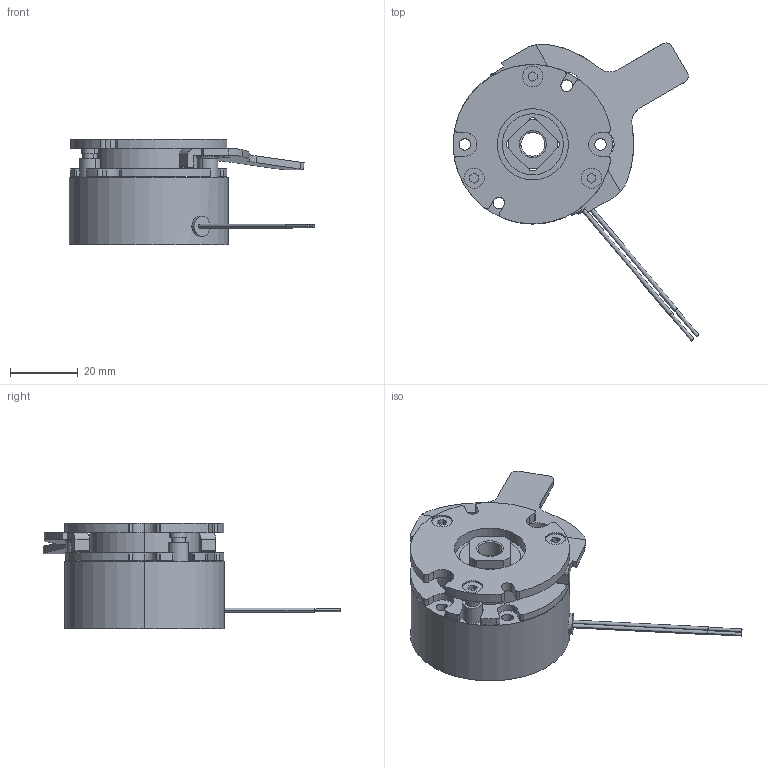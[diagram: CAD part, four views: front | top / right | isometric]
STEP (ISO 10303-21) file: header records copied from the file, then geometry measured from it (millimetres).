
FILE_DESCRIPTION (( 'STEP AP214' ), '1' );
FILE_NAME ('BXW-02-12-7.STEP', '2017-09-07T00:09:52', ( 'MIKI' ), ( '' ), 'SwSTEP 2.0', 'SolidWorks 2012', '' );
FILE_SCHEMA (( 'AUTOMOTIVE_DESIGN' ));
Length unit declared in the file: millimetre
Products named in the file (1): BXW-02-12-7
Bounding box: 72.5 x 87.9 x 31.2 mm (x, y, z)
Volume: 43631.2 mm3; surface area: 18742.5 mm2
Topology: 3 solids, 3 shells, 321 faces, 851 edges, 552 vertices
Faces by surface type: cylinder 160, plane 137, cone 16, torus 8
Entity records: 13830 total; most frequent: CARTESIAN_POINT 2011, DIRECTION 1785, ORIENTED_EDGE 1694, EDGE_CURVE 847, AXIS2_PLACEMENT_3D 652, VERTEX_POINT 552, LINE 481, VECTOR 481
